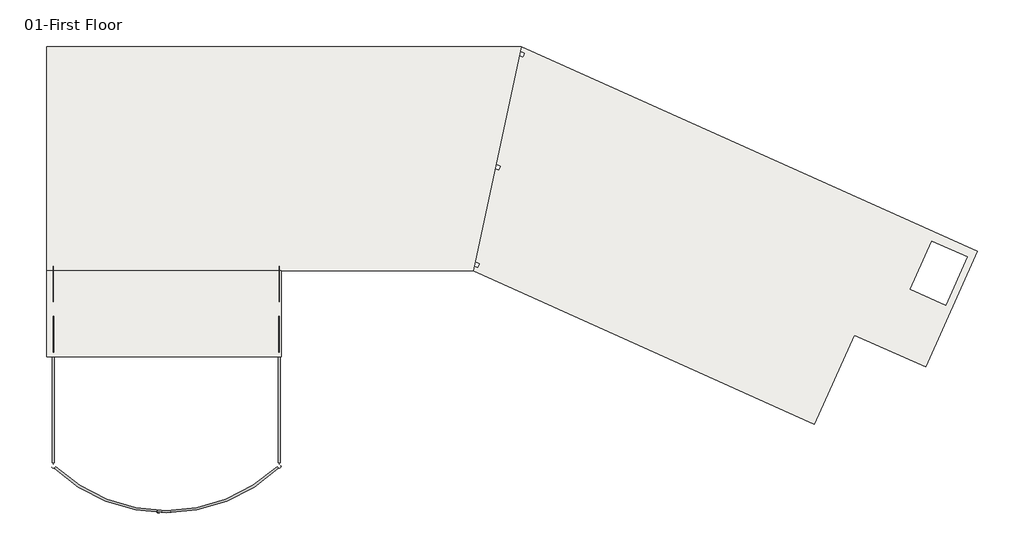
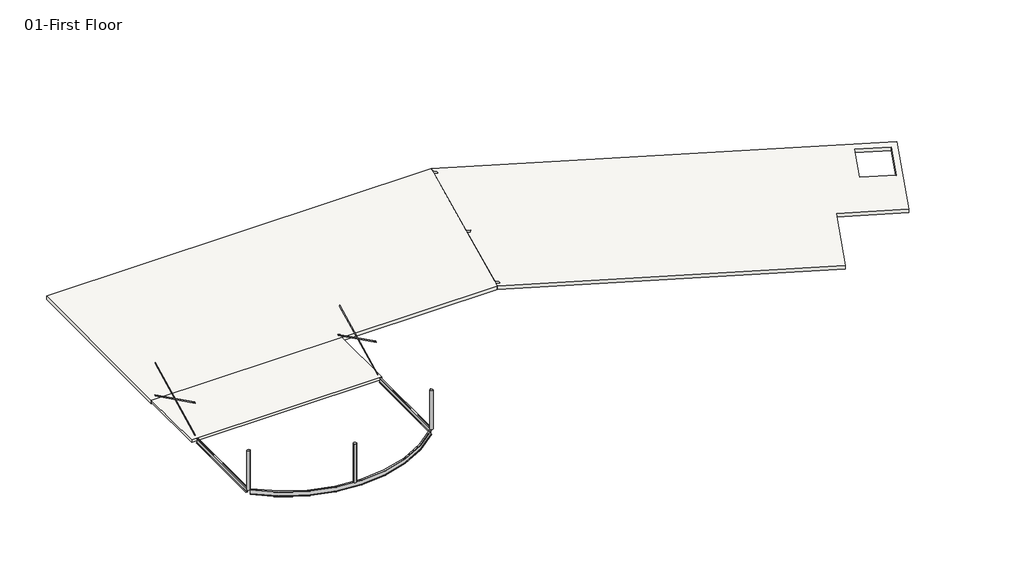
# One storey: 5 beams, 4 members, 3 columns, 3 slabs.
"""IFC4 building model written with IfcOpenShell, lengths in millimetres."""

from ifc_helpers import new_model, si_unit, frame, origin, place, context, project, spatial, polyline, outline, extrude, faceted_brep, transform, mapped, element, save
from components import w_shapes_w16x26_79f6515c, w_shapes_w16x26_bcd4aa5d, w_shapes_w16x26_ccd9a1e8, hss_round_column_hss10x_500_6a2b31e4, flat_bars_fl_3_8x4_8cd429a4, flat_bars_fl_3_8x4_80db56d9, flat_bars_fl_3_8x4_0a321cdc, flat_bars_fl_3_8x4_c289e923

model = new_model("IFC4")

# Units and contexts
model_context = context("Model", 3, world=origin())
ifc_project = project(units=[si_unit("LENGTHUNIT", "METRE", prefix="MILLI")], contexts=[model_context])

# Site, building, storey
site = spatial("IfcSite", under=ifc_project)
building = spatial("IfcBuilding", under=site)
storey = spatial("IfcBuildingStorey", under=building, Name="01-First Floor", Elevation=3352.8)

# Beams
placement = place(None, origin())
element("IfcBeam", 1, ObjectType="Concrete-Rectangular Beam : 12 x 24", at=placement, inside=storey, context=model_context, shape_type="SweptSolid", body=[
    extrude(outline(polyline([(152.4, -14147.8), (152.4, -13843.0), (6858.0, -13843.0), (6858.0, -14147.8), (152.4, -14147.8)])), frame((0.0, 0.0, 2743.2), z_axis=(0.0, 0.0, 1.0), x_axis=(1.0, 0.0, 0.0)), (0.0, 0.0, 1.0), 304.8),
])
element("IfcBeam", 2, ObjectType="Concrete-Rectangular Beam : 12 x 24", at=placement, inside=storey, context=model_context, shape_type="SweptSolid", body=[
    extrude(outline(polyline([(14846.3, -13843.0), (14846.3, -14147.8), (7162.8, -14147.8), (7162.8, -13843.0), (14846.3, -13843.0)])), frame((0.0, 0.0, 2743.2), z_axis=(0.0, 0.0, 1.0), x_axis=(1.0, 0.0, 0.0)), (0.0, 0.0, 1.0), 304.8),
])
w_shapes_w16x26_shape = w_shapes_w16x26_79f6515c(model_context)
element("IfcBeam", 3, ObjectType="W Shapes : W16X26", at=placement, inside=storey, context=model_context, shape_type="MappedRepresentation", body=[
    mapped(w_shapes_w16x26_shape, transform((14998.7, -27444.7, 3153.41), x_axis=(-0.7227923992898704, -0.691065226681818, 0.0), y_axis=(0.691065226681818, -0.7227923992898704, 0.0), z_axis=(0.0, 0.0, 1.0))),
])
w_shapes_w16x26_2_shape = w_shapes_w16x26_bcd4aa5d(model_context)
element("IfcBeam", 4, ObjectType="W Shapes : W16X26", at=placement, inside=storey, context=model_context, shape_type="MappedRepresentation", body=[
    mapped(w_shapes_w16x26_2_shape, transform((14998.7, -23723.6, 3153.41), x_axis=(0.0, -1.0, 0.0), y_axis=(1.0, 0.0, 0.0), z_axis=(0.0, 0.0, 1.0))),
])
w_shapes_w16x26_3_shape = w_shapes_w16x26_ccd9a1e8(model_context)
element("IfcBeam", 5, ObjectType="W Shapes : W16X26", at=placement, inside=storey, context=model_context, shape_type="MappedRepresentation", body=[
    mapped(w_shapes_w16x26_3_shape, transform((0.0, -23723.6, 3153.41), x_axis=(0.0, 1.0, 0.0), y_axis=(-1.0, 0.0, 0.0), z_axis=(0.0, 0.0, 1.0))),
])

# Columns
hss_round_column_hss10x_500_shape = hss_round_column_hss10x_500_6a2b31e4(model_context)
element("IfcColumn", 6, ObjectType="HSS Round-Column : HSS10X.500", at=placement, inside=storey, context=model_context, shape_type="MappedRepresentation", body=[
    mapped(hss_round_column_hss10x_500_shape, transform((0.0, -27444.7, 0.0), x_axis=(1.0, 0.0, 0.0), y_axis=(0.0, 1.0, 0.0), z_axis=(0.0, 0.0, 1.0))),
])
element("IfcColumn", 7, ObjectType="HSS Round-Column : HSS10X.500", at=placement, inside=storey, context=model_context, shape_type="MappedRepresentation", body=[
    mapped(hss_round_column_hss10x_500_shape, transform((7010.4, -30441.9, 0.0), x_axis=(1.0, 0.0, 0.0), y_axis=(0.0, 1.0, 0.0), z_axis=(0.0, 0.0, 1.0))),
])
element("IfcColumn", 8, ObjectType="HSS Round-Column : HSS10X.500", at=placement, inside=storey, context=model_context, shape_type="MappedRepresentation", body=[
    mapped(hss_round_column_hss10x_500_shape, transform((14998.7, -27444.7, 0.0), x_axis=(1.0, 0.0, 0.0), y_axis=(0.0, 1.0, 0.0), z_axis=(0.0, 0.0, 1.0))),
])

# Members
flat_bars_fl_3_8x4_shape = flat_bars_fl_3_8x4_8cd429a4(model_context)
element("IfcMember", 9, ObjectType="Flat Bars : FL 3/8X4", at=placement, inside=storey, context=model_context, shape_type="MappedRepresentation", body=[
    mapped(flat_bars_fl_3_8x4_shape, transform((14989.175, -16998.95, 4850.13), x_axis=(0.0, 0.8949563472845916, 0.44615371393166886), y_axis=(-1.0, 0.0, 0.0), z_axis=(0.0, -0.44615371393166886, 0.8949563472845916))),
])
flat_bars_fl_3_8x4_2_shape = flat_bars_fl_3_8x4_80db56d9(model_context)
element("IfcMember", 10, ObjectType="Flat Bars : FL 3/8X4", at=placement, inside=storey, context=model_context, shape_type="MappedRepresentation", body=[
    mapped(flat_bars_fl_3_8x4_2_shape, transform((14998.7, -16998.95, 4850.13), x_axis=(0.0, -0.8949563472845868, 0.4461537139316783), y_axis=(1.0, 0.0, 0.0), z_axis=(0.0, 0.4461537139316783, 0.8949563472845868))),
])
flat_bars_fl_3_8x4_3_shape = flat_bars_fl_3_8x4_0a321cdc(model_context)
element("IfcMember", 11, ObjectType="Flat Bars : FL 3/8X4", at=placement, inside=storey, context=model_context, shape_type="MappedRepresentation", body=[
    mapped(flat_bars_fl_3_8x4_3_shape, transform((9.525, -16998.95, 4850.13), x_axis=(0.0, 0.8949563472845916, 0.44615371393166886), y_axis=(-1.0, 0.0, 0.0), z_axis=(0.0, -0.44615371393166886, 0.8949563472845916))),
])
flat_bars_fl_3_8x4_4_shape = flat_bars_fl_3_8x4_c289e923(model_context)
element("IfcMember", 12, ObjectType="Flat Bars : FL 3/8X4", at=placement, inside=storey, context=model_context, shape_type="MappedRepresentation", body=[
    mapped(flat_bars_fl_3_8x4_4_shape, transform((0.0, -16998.95, 4850.13), x_axis=(0.0, -0.894956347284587, 0.44615371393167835), y_axis=(1.0, 0.0, 0.0), z_axis=(0.0, 0.44615371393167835, 0.894956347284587))),
])

# Slabs
element("IfcSlab", 13, ObjectType="RC Composite Slab 8\"", at=placement, inside=storey, context=model_context, shape_type="SweptSolid", body=[
    extrude(outline(polyline([(15151.1, -20154.9), (-457.2, -20154.9), (-457.2, -14452.6), (15151.1, -14452.6), (15151.1, -20154.9)])), frame((0.0, 0.0, 3149.6), z_axis=(0.0, 0.0, 1.0), x_axis=(1.0, 0.0, 0.0)), (0.0, 0.0, 1.0), 203.2),
])
element("IfcSlab", 14, ObjectType="RC Slab 12\"", at=placement, inside=storey, context=model_context, shape_type="Brep", body=[
    faceted_brep([(-457.2, 457.2, 3048.0), (31098.7387393, 457.2, 3048.0), (27903.7815965, -14452.6, 3048.0), (-457.2, -14452.6, 3048.0), (-457.2, 457.2, 3352.8), (-457.2, -14452.6, 3352.8), (15151.1, -14452.6, 3352.8), (27903.7815965, -14452.6, 3352.8), (31098.7387393, 457.2, 3352.8), (-457.2, -14452.6, 3149.6)], [[[0, 1, 2, 3]], [[4, 5, 6, 7, 8]], [[1, 0, 4, 8]], [[2, 1, 8, 7]], [[3, 2, 7, 6, 5, 9]], [[0, 3, 9, 5, 4]]]),
])
element("IfcSlab", 15, ObjectType="RC Slab 12\"", at=placement, inside=storey, context=model_context, shape_type="Brep", body=[
    faceted_brep([(61413.0546278, -13159.9258537, 3048.0), (57962.8673107, -20840.7, 3048.0), (53236.2370668, -18717.5078049, 3048.0), (50577.0429205, -24637.3804878, 3048.0), (27903.7815965, -14452.6, 3048.0), (27969.0988162, -14147.786308, 3048.0), (28217.3432689, -14259.3121951, 3048.0), (28342.2369275, -13981.275122, 3048.0), (28034.4045592, -13843.0124873, 3048.0), (29359.7488162, -7658.086308, 3048.0), (29607.9932689, -7769.6121951, 3048.0), (29732.8869275, -7491.575122, 3048.0), (29425.0545592, -7353.3124873, 3048.0), (30968.1131019, -152.386308, 3048.0), (31216.3575546, -263.9121951, 3048.0), (31341.2512132, 14.124878, 3048.0), (31033.4188449, 152.3875127, 3048.0), (31098.7387393, 457.2, 3048.0), (59309.9346278, -16726.0858537, 3048.0), (60746.211701, -13528.6595122, 3048.0), (58382.896579, -12467.0634146, 3048.0), (56946.6195059, -15664.4897561, 3048.0), (57962.8673107, -20840.7, 3352.8), (61413.0546278, -13159.9258537, 3352.8), (31098.7387393, 457.2, 3352.8), (31033.4244536, 152.4, 3352.8), (31341.2512132, 14.124878, 3352.8), (31216.3575546, -263.9121951, 3352.8), (30968.1131019, -152.386308, 3352.8), (29425.0601679, -7353.3, 3352.8), (29732.8869275, -7491.575122, 3352.8), (29607.9932689, -7769.6121951, 3352.8), (29359.7488162, -7658.086308, 3352.8), (28034.4101679, -13843.0, 3352.8), (28342.2369275, -13981.275122, 3352.8), (28217.3432689, -14259.3121951, 3352.8), (27969.0988162, -14147.786308, 3352.8), (27903.7815965, -14452.6, 3352.8), (50577.0429205, -24637.3804878, 3352.8), (53236.2370668, -18717.5078049, 3352.8), (60746.211701, -13528.6595122, 3352.8), (59309.9346278, -16726.0858537, 3352.8), (56946.6195059, -15664.4897561, 3352.8), (58382.896579, -12467.0634146, 3352.8)], [[[0, 1, 2, 3, 4, 5, 6, 7, 8, 9, 10, 11, 12, 13, 14, 15, 16, 17], [18, 19, 20, 21]], [[22, 23, 24, 25, 26, 27, 28, 29, 30, 31, 32, 33, 34, 35, 36, 37, 38, 39], [40, 41, 42, 43]], [[1, 0, 23, 22]], [[2, 1, 22, 39]], [[3, 2, 39, 38]], [[4, 3, 38, 37]], [[4, 37, 36, 5]], [[24, 17, 16, 25]], [[8, 33, 32, 9]], [[28, 13, 12, 29]], [[0, 17, 24, 23]], [[7, 34, 33, 8]], [[34, 7, 6, 35]], [[35, 6, 5, 36]], [[15, 26, 25, 16]], [[26, 15, 14, 27]], [[27, 14, 13, 28]], [[11, 30, 29, 12]], [[30, 11, 10, 31]], [[31, 10, 9, 32]], [[18, 41, 40, 19]], [[19, 40, 43, 20]], [[20, 43, 42, 21]], [[41, 18, 21, 42]]]),
])

save(model, "model.ifc")
